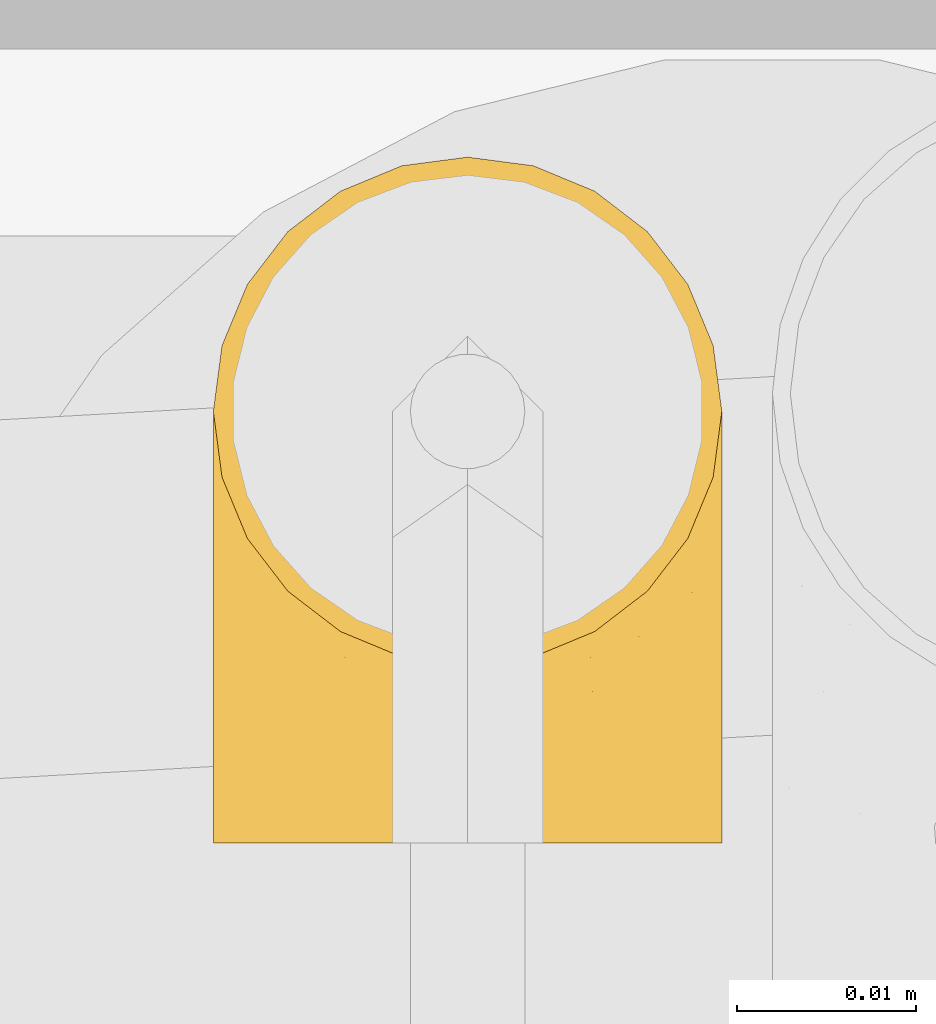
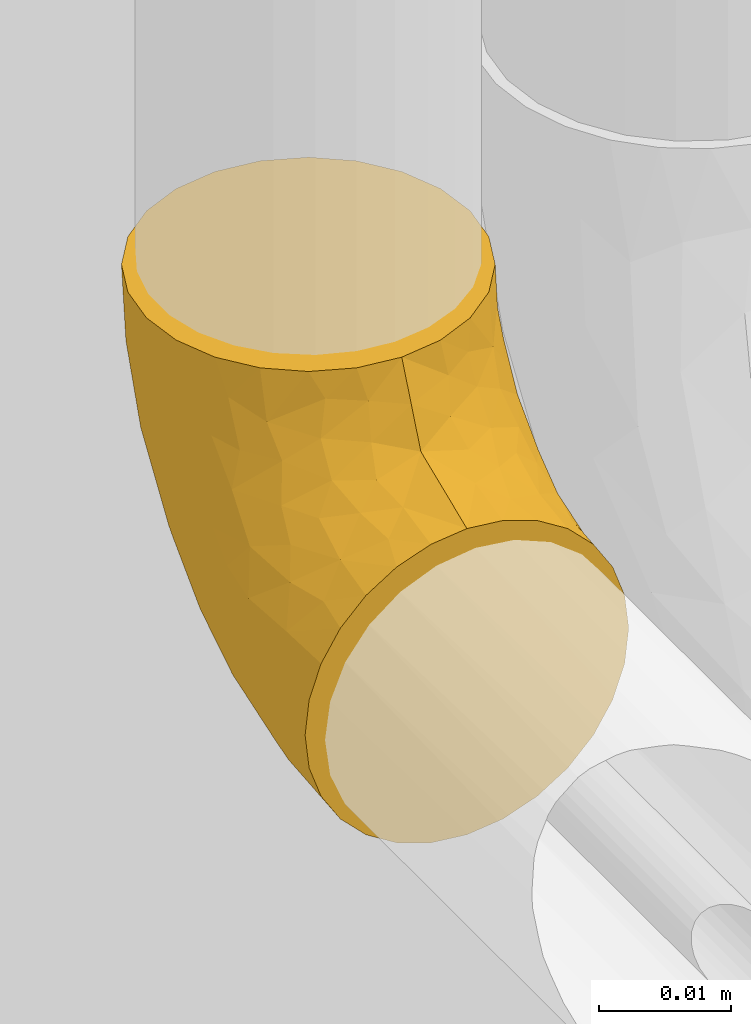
# One storey, part 14 of 30: 1 covering.
"""IFC2X3 building model written with IfcOpenShell, lengths in metres."""

from ifc_helpers import new_model, entity, si_unit, converted_unit, derived_unit, direction, frame, origin, place, context, subcontext, project, spatial, faceted_brep, material, type_object, element, save


model = new_model("IFC2X3")

# Units and contexts
model_context = context("Model", 3, precision=1e-05, world=origin(), true_north=direction((6.123031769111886e-17, 1.0)))
body_context = subcontext(model_context, "Body", "Model", "MODEL_VIEW")
ifc_project = project(units=[si_unit("LENGTHUNIT", "METRE"), si_unit("AREAUNIT", "SQUARE_METRE"), si_unit("VOLUMEUNIT", "CUBIC_METRE"), converted_unit("PLANEANGLEUNIT", "DEGREE", entity("IfcPlaneAngleMeasure", 0.017453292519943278), si_unit("PLANEANGLEUNIT", "RADIAN"), dimensions=[0, 0, 0, 0, 0, 0, 0]), si_unit("MASSUNIT", "GRAM", prefix="KILO"), derived_unit("MASSDENSITYUNIT", [(si_unit("MASSUNIT", "GRAM", prefix="KILO"), 1), (si_unit("LENGTHUNIT", "METRE"), -3)]), derived_unit("IONCONCENTRATIONUNIT", [(si_unit("MASSUNIT", "GRAM", prefix="KILO"), 1), (si_unit("LENGTHUNIT", "METRE"), -3)]), derived_unit("MOMENTOFINERTIAUNIT", [(si_unit("LENGTHUNIT", "METRE"), 4)]), si_unit("TIMEUNIT", "SECOND"), si_unit("FREQUENCYUNIT", "HERTZ"), si_unit("THERMODYNAMICTEMPERATUREUNIT", "DEGREE_CELSIUS"), derived_unit("THERMALTRANSMITTANCEUNIT", [(si_unit("MASSUNIT", "GRAM", prefix="KILO"), 1), (si_unit("THERMODYNAMICTEMPERATUREUNIT", "KELVIN"), -1), (si_unit("TIMEUNIT", "SECOND"), -3)]), derived_unit("THERMALCONDUCTANCEUNIT", [(si_unit("MASSUNIT", "GRAM", prefix="KILO"), 1), (si_unit("THERMODYNAMICTEMPERATUREUNIT", "KELVIN"), -1), (si_unit("TIMEUNIT", "SECOND"), -3), (si_unit("LENGTHUNIT", "METRE"), 1)]), derived_unit("VOLUMETRICFLOWRATEUNIT", [(si_unit("LENGTHUNIT", "METRE", prefix="DECI"), 3), (si_unit("TIMEUNIT", "SECOND"), -1)]), derived_unit("MASSFLOWRATEUNIT", [(si_unit("MASSUNIT", "GRAM", prefix="KILO"), 1), (si_unit("TIMEUNIT", "SECOND"), -1)]), derived_unit("ROTATIONALFREQUENCYUNIT", [(si_unit("TIMEUNIT", "SECOND"), -1)]), si_unit("ELECTRICCURRENTUNIT", "AMPERE"), si_unit("ELECTRICVOLTAGEUNIT", "VOLT"), si_unit("POWERUNIT", "WATT"), si_unit("FORCEUNIT", "NEWTON", prefix="KILO"), si_unit("ILLUMINANCEUNIT", "LUX"), si_unit("LUMINOUSFLUXUNIT", "LUMEN"), si_unit("LUMINOUSINTENSITYUNIT", "CANDELA"), si_unit("ENERGYUNIT", "JOULE"), derived_unit("USERDEFINED", [(si_unit("MASSUNIT", "GRAM", prefix="KILO"), -1), (si_unit("LENGTHUNIT", "METRE"), -2), (si_unit("TIMEUNIT", "SECOND"), 3), (si_unit("LUMINOUSFLUXUNIT", "LUMEN"), 1)]), derived_unit("USERDEFINED", [(si_unit("MASSUNIT", "GRAM", prefix="KILO"), 1), (si_unit("TIMEUNIT", "SECOND"), -3), (si_unit("LENGTHUNIT", "METRE"), 3), (si_unit("ELECTRICCURRENTUNIT", "AMPERE"), -2)]), derived_unit("SOUNDPOWERUNIT", [(si_unit("MASSUNIT", "GRAM", prefix="KILO"), 1), (si_unit("TIMEUNIT", "SECOND"), -3), (si_unit("LENGTHUNIT", "METRE"), 2)]), derived_unit("SOUNDPRESSUREUNIT", [(si_unit("MASSUNIT", "GRAM", prefix="KILO"), 1), (si_unit("LENGTHUNIT", "METRE"), -1), (si_unit("TIMEUNIT", "SECOND"), -2)]), derived_unit("LINEARVELOCITYUNIT", [(si_unit("LENGTHUNIT", "METRE"), 1), (si_unit("TIMEUNIT", "SECOND"), -1)]), si_unit("PRESSUREUNIT", "PASCAL"), derived_unit("USERDEFINED", [(si_unit("MASSUNIT", "GRAM", prefix="KILO"), 1), (si_unit("LENGTHUNIT", "METRE"), -2), (si_unit("TIMEUNIT", "SECOND"), -2)]), derived_unit("LINEARFORCEUNIT", [(si_unit("MASSUNIT", "GRAM", prefix="KILO"), 1), (si_unit("TIMEUNIT", "SECOND"), -2)]), derived_unit("PLANARFORCEUNIT", [(si_unit("MASSUNIT", "GRAM", prefix="KILO"), 1), (si_unit("LENGTHUNIT", "METRE"), -1), (si_unit("TIMEUNIT", "SECOND"), -2)]), derived_unit("SPECIFICHEATCAPACITYUNIT", [(si_unit("THERMODYNAMICTEMPERATUREUNIT", "KELVIN"), -1), (si_unit("LENGTHUNIT", "METRE"), 2), (si_unit("TIMEUNIT", "SECOND"), -2)]), derived_unit("HEATFLUXDENSITYUNIT", [(si_unit("MASSUNIT", "GRAM", prefix="KILO"), 1), (si_unit("TIMEUNIT", "SECOND"), -3)]), derived_unit("HEATINGVALUEUNIT", [(si_unit("LENGTHUNIT", "METRE"), 2), (si_unit("TIMEUNIT", "SECOND"), -2)]), derived_unit("VAPORPERMEABILITYUNIT", [(si_unit("LENGTHUNIT", "METRE"), -1), (si_unit("TIMEUNIT", "SECOND"), 1)]), derived_unit("DYNAMICVISCOSITYUNIT", [(si_unit("MASSUNIT", "GRAM", prefix="KILO"), 1), (si_unit("TIMEUNIT", "SECOND"), -1), (si_unit("LENGTHUNIT", "METRE"), -1)]), derived_unit("THERMALEXPANSIONCOEFFICIENTUNIT", [(si_unit("THERMODYNAMICTEMPERATUREUNIT", "KELVIN"), -1)]), derived_unit("MODULUSOFELASTICITYUNIT", [(si_unit("MASSUNIT", "GRAM", prefix="KILO"), 1), (si_unit("LENGTHUNIT", "METRE"), -1), (si_unit("TIMEUNIT", "SECOND"), -2)]), derived_unit("ISOTHERMALMOISTURECAPACITYUNIT", [(si_unit("MASSUNIT", "GRAM", prefix="KILO"), -1), (si_unit("LENGTHUNIT", "METRE"), 3)]), derived_unit("MOISTUREDIFFUSIVITYUNIT", [(si_unit("TIMEUNIT", "SECOND"), -1), (si_unit("LENGTHUNIT", "METRE"), 2)]), derived_unit("MASSPERLENGTHUNIT", [(si_unit("MASSUNIT", "GRAM", prefix="KILO"), 1), (si_unit("LENGTHUNIT", "METRE"), -1)]), derived_unit("THERMALRESISTANCEUNIT", [(si_unit("MASSUNIT", "GRAM", prefix="KILO"), -1), (si_unit("TIMEUNIT", "SECOND"), 3), (si_unit("THERMODYNAMICTEMPERATUREUNIT", "KELVIN"), 1)]), derived_unit("ACCELERATIONUNIT", [(si_unit("LENGTHUNIT", "METRE"), 1), (si_unit("TIMEUNIT", "SECOND"), -2)]), derived_unit("ANGULARVELOCITYUNIT", [(si_unit("TIMEUNIT", "SECOND"), -1), (si_unit("PLANEANGLEUNIT", "RADIAN"), 1)]), derived_unit("LINEARSTIFFNESSUNIT", [(si_unit("MASSUNIT", "GRAM", prefix="KILO"), 1), (si_unit("TIMEUNIT", "SECOND"), -2)]), derived_unit("WARPINGCONSTANTUNIT", [(si_unit("LENGTHUNIT", "METRE"), 6)]), derived_unit("LINEARMOMENTUNIT", [(si_unit("MASSUNIT", "GRAM", prefix="KILO"), 1), (si_unit("LENGTHUNIT", "METRE"), 1), (si_unit("TIMEUNIT", "SECOND"), -2)]), derived_unit("TORQUEUNIT", [(si_unit("MASSUNIT", "GRAM", prefix="KILO"), 1), (si_unit("LENGTHUNIT", "METRE"), 2), (si_unit("TIMEUNIT", "SECOND"), -2)])], contexts=[model_context])

# Site, building, storey
site_placement = place(None, origin())
site = spatial("IfcSite", under=ifc_project, at=site_placement, Name="Default", CompositionType="ELEMENT")
building_placement = place(site_placement, origin())
building = spatial("IfcBuilding", under=site, at=building_placement, CompositionType="ELEMENT")
storey_placement = place(building_placement, origin())
storey = spatial("IfcBuildingStorey", under=building, at=storey_placement, Name="Niveau 0", CompositionType="ELEMENT", Elevation=-1.949160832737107e-14)

# Covering
ifc_material = material(Name="Matériau du rendu 255-255-255")
covering_type = type_object("IfcCoveringType", Name="Isolation des canalisations:Par défaut", PredefinedType="INSULATION")
covering_placement = place(storey_placement, frame((-19.87895967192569, 2.82258120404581, -0.41579527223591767)))
element("IfcCovering", 1, at=covering_placement, inside=storey, type_object=covering_type, material=ifc_material, Name="Isolation des canalisations:Par défaut", ObjectType="Isolation des canalisations:Par défaut", PredefinedType="INSULATION", context=body_context, shape_type="Brep", body=[
    faceted_brep([(0.001951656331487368, 0.0015952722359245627, 0.012633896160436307), (0.0030025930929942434, 0.0015952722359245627, 0.009631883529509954), (0.004694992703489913, 0.0015952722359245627, 0.006939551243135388), (0.006943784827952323, 0.0015952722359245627, 0.00469161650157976), (0.009636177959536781, 0.0015952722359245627, 0.0030005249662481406), (0.012637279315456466, 0.0015952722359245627, 0.001950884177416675), (0.015795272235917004, 0.0015952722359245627, 0.0015952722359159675), (0.01895664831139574, 0.0015952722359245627, 0.001951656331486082), (0.021958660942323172, 0.0015952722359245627, 0.0030025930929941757), (0.024650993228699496, 0.0015952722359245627, 0.0046949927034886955), (0.026898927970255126, 0.0015952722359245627, 0.006943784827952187), (0.028590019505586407, 0.0015952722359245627, 0.009636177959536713), (0.029639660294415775, 0.0015952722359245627, 0.012637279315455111), (0.029995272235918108, 0.0015952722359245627, 0.015795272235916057), (0.02963888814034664, 0.0015952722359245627, 0.01895664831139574), (0.028587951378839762, 0.0015952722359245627, 0.02195866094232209), (0.026895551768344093, 0.0015952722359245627, 0.024650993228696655), (0.024646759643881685, 0.0015952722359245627, 0.026898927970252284), (0.021954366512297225, 0.0015952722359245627, 0.028590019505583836), (0.01895326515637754, 0.0015952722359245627, 0.02963966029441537), (0.015795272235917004, 0.0015952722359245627, 0.02999527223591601), (0.012633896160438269, 0.0015952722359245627, 0.029638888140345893), (0.009631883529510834, 0.0015952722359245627, 0.028587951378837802), (0.006939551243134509, 0.0015952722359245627, 0.02689555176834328), (0.004691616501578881, 0.0015952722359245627, 0.02464675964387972), (0.003000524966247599, 0.0015952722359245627, 0.021954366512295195), (0.0019508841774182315, 0.0015952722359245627, 0.018953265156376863), (0.0015952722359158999, 0.0015952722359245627, 0.015795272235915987), (0.019470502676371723, 0.011979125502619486, 0.03989527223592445), (0.02289527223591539, 0.013397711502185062, 0.03989527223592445), (0.025836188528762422, 0.01565435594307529, 0.03989527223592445), (0.028092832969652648, 0.018595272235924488, 0.03989527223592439), (0.029511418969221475, 0.022020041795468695, 0.03989527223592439), (0.029995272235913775, 0.025695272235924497, 0.03989527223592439), (0.029511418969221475, 0.029370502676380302, 0.03989527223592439), (0.028092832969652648, 0.03279527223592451, 0.03989527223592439), (0.025836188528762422, 0.035736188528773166, 0.03989527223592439), (0.02289527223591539, 0.037992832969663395, 0.03989527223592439), (0.019470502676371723, 0.03941141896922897, 0.03989527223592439), (0.015795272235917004, 0.03989527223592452, 0.03989527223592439), (0.012120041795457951, 0.03941141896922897, 0.03989527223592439), (0.008695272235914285, 0.037992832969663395, 0.03989527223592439), (0.005754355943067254, 0.035736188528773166, 0.03989527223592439), (0.0034977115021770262, 0.03279527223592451, 0.03989527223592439), (0.002079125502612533, 0.029370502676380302, 0.03989527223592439), (0.0015952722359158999, 0.025695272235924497, 0.03989527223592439), (0.0020791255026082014, 0.022020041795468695, 0.03989527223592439), (0.0034977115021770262, 0.018595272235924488, 0.03989527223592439), (0.005754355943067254, 0.01565435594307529, 0.03989527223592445), (0.008695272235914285, 0.013397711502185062, 0.03989527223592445), (0.012120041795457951, 0.011979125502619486, 0.03989527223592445), (0.015795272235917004, 0.011495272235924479, 0.03989527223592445), (0.0018566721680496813, 0.01002356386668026, 0.01444233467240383), (0.01342388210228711, 0.03837015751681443, 0.029932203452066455), (0.015795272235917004, 0.03807857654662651, 0.0331152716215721), (0.015795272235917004, 0.03642131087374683, 0.02693027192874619), (0.0033376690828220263, 0.02960367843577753, 0.026807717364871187), (0.005049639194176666, 0.03380758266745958, 0.031132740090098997), (0.005409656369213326, 0.03076747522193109, 0.022855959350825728), (0.0019283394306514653, 0.016864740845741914, 0.01743704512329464), (0.0015952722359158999, 0.0136452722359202, 0.019024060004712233), (0.011502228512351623, 0.010860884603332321, 0.0034181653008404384), (0.009156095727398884, 0.01756297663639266, 0.006903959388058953), (0.012083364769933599, 0.018031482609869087, 0.005848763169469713), (0.0022458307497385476, 0.022802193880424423, 0.021082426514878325), (0.0015952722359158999, 0.018055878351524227, 0.02343466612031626), (0.008040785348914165, 0.03442139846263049, 0.02512582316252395), (0.010786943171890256, 0.03783267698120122, 0.030693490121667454), (0.011666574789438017, 0.03438477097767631, 0.021317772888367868), (0.0029464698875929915, 0.031158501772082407, 0.03399886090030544), (0.0019132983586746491, 0.027268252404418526, 0.03125340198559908), (0.008787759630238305, 0.029040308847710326, 0.015907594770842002), (0.0015952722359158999, 0.022466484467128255, 0.027845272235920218), (0.0015952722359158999, 0.023181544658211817, 0.030513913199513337), (0.0015952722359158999, 0.02389660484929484, 0.033182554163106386), (0.0015952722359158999, 0.024080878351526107, 0.0338702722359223), (0.0015952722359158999, 0.02479593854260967, 0.03653891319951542), (0.0026820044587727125, 0.019401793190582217, 0.01631519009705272), (0.0035716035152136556, 0.025738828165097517, 0.019934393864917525), (0.003863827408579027, 0.021058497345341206, 0.014748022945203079), (0.004162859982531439, 0.008564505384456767, 0.0084133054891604), (0.0063228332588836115, 0.010939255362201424, 0.006498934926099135), (0.008616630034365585, 0.008435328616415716, 0.004192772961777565), (0.015795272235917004, 0.014560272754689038, 0.005069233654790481), (0.002659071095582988, 0.007947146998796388, 0.011094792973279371), (0.00302466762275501, 0.015081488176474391, 0.012751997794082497), (0.00754829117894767, 0.03658290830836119, 0.03300459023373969), (0.0015952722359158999, 0.004951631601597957, 0.016694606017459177), (0.0015952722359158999, 0.007620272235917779, 0.01740966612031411), (0.0015952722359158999, 0.008307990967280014, 0.01759393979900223), (0.0015952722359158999, 0.010976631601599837, 0.01830899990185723), (0.004997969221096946, 0.016854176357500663, 0.010271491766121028), (0.007159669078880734, 0.021901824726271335, 0.010932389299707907), (0.015795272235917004, 0.00837527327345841, 0.003411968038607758), (0.005390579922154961, 0.025384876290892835, 0.015936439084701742), (0.015795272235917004, 0.02775465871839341, 0.013735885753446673), (0.015795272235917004, 0.02074527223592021, 0.0067264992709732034), (0.012056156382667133, 0.02452709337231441, 0.009847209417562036), (0.015795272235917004, 0.03476404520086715, 0.02074527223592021), (0.011681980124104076, 0.029976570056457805, 0.015093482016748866), (0.009491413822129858, 0.02334684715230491, 0.010181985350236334), (0.0015952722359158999, 0.02026118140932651, 0.025639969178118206), (0.0015952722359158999, 0.01585057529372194, 0.02122936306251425), (0.002213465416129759, 0.011258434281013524, 0.022435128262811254), (0.002761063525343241, 0.0064427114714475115, 0.022077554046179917), (0.0040506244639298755, 0.008142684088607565, 0.02516640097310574), (0.0019202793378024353, 0.020889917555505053, 0.03140681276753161), (0.002102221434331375, 0.021588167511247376, 0.03615564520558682), (0.005860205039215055, 0.014794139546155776, 0.03536609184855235), (0.006234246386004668, 0.013099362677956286, 0.03263951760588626), (0.008939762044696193, 0.011933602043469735, 0.0344934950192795), (0.0032572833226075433, 0.015604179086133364, 0.029518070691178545), (0.0020017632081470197, 0.01899677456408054, 0.02863542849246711), (0.0020805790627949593, 0.016450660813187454, 0.025885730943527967), (0.009727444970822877, 0.012599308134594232, 0.03749996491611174), (0.0025332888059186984, 0.019908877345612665, 0.034742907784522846), (0.0040093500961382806, 0.01745874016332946, 0.03671230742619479), (0.012324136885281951, 0.010112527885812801, 0.03404877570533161), (0.015795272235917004, 0.008595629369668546, 0.03289491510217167), (0.015795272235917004, 0.010045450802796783, 0.03639509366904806), (0.01175165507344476, 0.008311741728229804, 0.031840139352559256), (0.0019493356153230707, 0.004938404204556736, 0.01921494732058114), (0.012616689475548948, 0.00580074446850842, 0.030536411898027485), (0.009696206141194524, 0.007255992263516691, 0.030142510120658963), (0.010446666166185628, 0.004263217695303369, 0.029279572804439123), (0.0070634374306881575, 0.005709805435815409, 0.027666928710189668), (0.00712496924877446, 0.009080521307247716, 0.029445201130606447), (0.008828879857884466, 0.010052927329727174, 0.031772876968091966), (0.004930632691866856, 0.004564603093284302, 0.02523626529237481), (0.0018816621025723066, 0.008085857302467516, 0.01964765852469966), (0.01279210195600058, 0.011387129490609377, 0.03696396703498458), (0.015795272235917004, 0.005095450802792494, 0.03144509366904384), (0.003128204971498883, 0.012638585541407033, 0.026085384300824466), (0.004981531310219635, 0.009677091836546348, 0.027381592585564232), (0.004122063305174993, 0.015887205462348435, 0.03267010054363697), (0.002976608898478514, 0.018224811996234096, 0.03303024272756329), (0.0020511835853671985, 0.014226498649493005, 0.023710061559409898), (0.005370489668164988, 0.011756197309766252, 0.029609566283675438), (0.022758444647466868, 0.010052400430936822, 0.03177494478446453), (0.019266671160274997, 0.010112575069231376, 0.034048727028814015), (0.019833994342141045, 0.00831020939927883, 0.0318407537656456), (0.029995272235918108, 0.0049516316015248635, 0.016694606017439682), (0.019964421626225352, 0.011619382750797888, 0.036684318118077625), (0.029995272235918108, 0.023181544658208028, 0.030513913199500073), (0.0296702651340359, 0.020889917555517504, 0.031406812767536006), (0.029995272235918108, 0.022466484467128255, 0.027845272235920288), (0.02237447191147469, 0.012813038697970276, 0.0372909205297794), (0.029488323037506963, 0.021588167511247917, 0.036155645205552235), (0.029995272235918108, 0.02479593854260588, 0.03653891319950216), (0.02621477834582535, 0.011752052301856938, 0.02961348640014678), (0.028458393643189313, 0.012633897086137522, 0.026091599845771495), (0.02832921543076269, 0.015599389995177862, 0.02952438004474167), (0.028613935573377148, 0.018224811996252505, 0.03303024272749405), (0.029057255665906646, 0.019908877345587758, 0.03474290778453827), (0.027581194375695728, 0.017458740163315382, 0.03671230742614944), (0.025730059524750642, 0.014794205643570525, 0.03536712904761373), (0.02535501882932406, 0.013099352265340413, 0.032641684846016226), (0.02264995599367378, 0.011934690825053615, 0.03449656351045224), (0.021139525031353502, 0.004262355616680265, 0.029281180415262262), (0.018971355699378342, 0.00579937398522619, 0.03053642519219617), (0.028827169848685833, 0.006441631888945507, 0.02208279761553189), (0.029640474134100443, 0.004940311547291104, 0.019218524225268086), (0.02452219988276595, 0.005707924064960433, 0.02767033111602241), (0.029995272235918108, 0.007620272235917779, 0.01740966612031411), (0.029995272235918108, 0.008307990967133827, 0.017593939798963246), (0.029376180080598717, 0.011262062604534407, 0.02244050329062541), (0.027535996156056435, 0.008140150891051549, 0.025171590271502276), (0.026655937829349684, 0.00456334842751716, 0.02524082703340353), (0.021889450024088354, 0.007253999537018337, 0.03014404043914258), (0.02446036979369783, 0.009077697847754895, 0.029448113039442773), (0.027467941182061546, 0.015888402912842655, 0.032674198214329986), (0.029588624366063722, 0.018992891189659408, 0.028630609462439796), (0.029995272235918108, 0.010976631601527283, 0.018308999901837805), (0.029995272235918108, 0.0136452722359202, 0.019024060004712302), (0.02968842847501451, 0.009624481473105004, 0.020313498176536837), (0.02660438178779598, 0.009673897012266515, 0.02738600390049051), (0.029534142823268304, 0.014210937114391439, 0.023723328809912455), (0.029995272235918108, 0.018055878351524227, 0.02343466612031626), (0.029507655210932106, 0.01643599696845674, 0.025882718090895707), (0.029995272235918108, 0.01585057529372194, 0.021229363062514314), (0.029995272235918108, 0.02026118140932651, 0.025639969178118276), (0.029995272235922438, 0.02389660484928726, 0.03318255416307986), (0.029995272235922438, 0.024080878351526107, 0.0338702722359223), (0.02654097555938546, 0.03380780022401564, 0.031133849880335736), (0.028253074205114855, 0.029604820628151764, 0.026811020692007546), (0.026181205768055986, 0.030767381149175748, 0.0228564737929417), (0.02743049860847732, 0.008564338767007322, 0.008417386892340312), (0.029677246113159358, 0.027268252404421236, 0.031253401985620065), (0.022802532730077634, 0.029032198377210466, 0.01589810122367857), (0.01953627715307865, 0.02452672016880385, 0.009847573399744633), (0.01885314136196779, 0.03028171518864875, 0.015024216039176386), (0.024434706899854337, 0.021899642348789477, 0.010934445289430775), (0.026595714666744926, 0.01685214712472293, 0.01027458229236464), (0.025271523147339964, 0.010939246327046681, 0.00650247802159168), (0.028644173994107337, 0.031158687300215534, 0.03400087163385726), (0.02080353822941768, 0.037832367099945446, 0.030692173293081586), (0.023549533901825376, 0.034420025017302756, 0.025122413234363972), (0.01992365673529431, 0.03438465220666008, 0.02131737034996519), (0.028567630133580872, 0.015079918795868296, 0.012755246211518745), (0.028146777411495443, 0.022101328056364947, 0.016505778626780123), (0.029662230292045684, 0.01686392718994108, 0.0174366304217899), (0.0200920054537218, 0.010861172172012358, 0.0034194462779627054), (0.029734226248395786, 0.010022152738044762, 0.014443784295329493), (0.024042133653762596, 0.03658260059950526, 0.03300258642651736), (0.02297803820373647, 0.008436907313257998, 0.0041955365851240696), (0.022438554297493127, 0.017562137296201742, 0.006905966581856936), (0.029344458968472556, 0.022801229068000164, 0.021080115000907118), (0.028396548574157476, 0.02609654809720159, 0.0214872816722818), (0.01816661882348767, 0.03837016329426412, 0.029932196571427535), (0.026203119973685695, 0.025382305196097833, 0.01593867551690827), (0.028933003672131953, 0.007946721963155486, 0.011098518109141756), (0.01886267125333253, 0.01802090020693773, 0.005667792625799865), (0.0221022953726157, 0.0233488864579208, 0.010185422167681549)], [[[0, 1, 2, 3, 4, 5, 6, 7, 8, 9, 10, 11, 12, 13, 14, 15, 16, 17, 18, 19, 20, 21, 22, 23, 24, 25, 26, 27]], [[28, 29, 30, 31, 32, 33, 34, 35, 36, 37, 38, 39, 40, 41, 42, 43, 44, 45, 46, 47, 48, 49, 50, 51]], [[27, 52, 0]], [[53, 54, 55]], [[56, 57, 58]], [[59, 52, 60]], [[61, 62, 63]], [[64, 59, 65]], [[66, 67, 68]], [[57, 56, 69]], [[70, 45, 44]], [[43, 42, 57]], [[66, 68, 71]], [[70, 72, 73, 74, 75, 76, 45]], [[44, 43, 69]], [[77, 78, 79]], [[80, 81, 2]], [[41, 40, 67]], [[82, 62, 61]], [[2, 81, 3]], [[63, 83, 61]], [[61, 5, 4]], [[84, 52, 85]], [[40, 39, 54]], [[58, 78, 56]], [[66, 86, 67]], [[86, 42, 41]], [[52, 27, 87, 88, 89, 90, 60]], [[91, 92, 81]], [[70, 64, 72]], [[80, 2, 1]], [[93, 5, 61]], [[1, 0, 84]], [[93, 6, 5]], [[81, 80, 91]], [[4, 82, 61]], [[54, 53, 40]], [[82, 4, 3]], [[68, 67, 53]], [[86, 57, 42]], [[58, 94, 78]], [[69, 70, 44]], [[64, 70, 56]], [[78, 64, 56]], [[85, 52, 59]], [[3, 81, 82]], [[62, 82, 81]], [[84, 80, 1]], [[91, 80, 85]], [[79, 91, 85]], [[91, 94, 92]], [[95, 96, 97]], [[94, 58, 71]], [[98, 95, 99]], [[99, 95, 97]], [[92, 62, 81]], [[92, 100, 62]], [[68, 99, 71]], [[52, 84, 0]], [[80, 84, 85]], [[67, 86, 41]], [[57, 86, 66]], [[57, 66, 58]], [[71, 58, 66]], [[64, 65, 101, 72]], [[77, 79, 85]], [[59, 60, 102, 65]], [[94, 71, 92]], [[71, 99, 100]], [[68, 53, 55]], [[98, 68, 55]], [[40, 53, 67]], [[71, 100, 92]], [[63, 100, 97]], [[57, 69, 43]], [[70, 69, 56]], [[100, 63, 62]], [[83, 93, 61]], [[79, 78, 94]], [[91, 79, 94]], [[85, 59, 77]], [[59, 64, 77]], [[78, 77, 64]], [[99, 68, 98]], [[100, 99, 97]], [[97, 96, 63]], [[83, 63, 96]], [[103, 104, 105]], [[72, 106, 73]], [[47, 46, 107]], [[107, 46, 76]], [[108, 109, 110]], [[111, 112, 113]], [[108, 110, 114]], [[47, 115, 116]], [[117, 118, 119]], [[108, 49, 48]], [[118, 117, 120]], [[25, 121, 26]], [[49, 114, 50]], [[122, 123, 124]], [[124, 125, 22]], [[126, 123, 127]], [[128, 104, 24]], [[129, 103, 60]], [[24, 104, 25]], [[27, 26, 87]], [[123, 120, 127]], [[130, 117, 119]], [[107, 76, 75, 74, 73]], [[131, 118, 122, 20]], [[105, 132, 103]], [[21, 124, 22]], [[23, 22, 125]], [[121, 87, 26]], [[126, 133, 125]], [[130, 110, 117]], [[123, 122, 120]], [[128, 24, 23]], [[50, 130, 51]], [[128, 125, 105]], [[129, 121, 104]], [[116, 108, 48]], [[134, 135, 111]], [[135, 112, 111]], [[127, 120, 117]], [[21, 20, 122]], [[125, 124, 123]], [[21, 122, 124]], [[105, 133, 132]], [[136, 103, 132]], [[111, 132, 137]], [[113, 136, 132]], [[111, 137, 109]], [[112, 106, 72]], [[118, 120, 122]], [[127, 117, 110]], [[109, 127, 110]], [[126, 127, 137]], [[133, 126, 137]], [[125, 123, 126]], [[132, 133, 137]], [[125, 133, 105]], [[125, 128, 23]], [[104, 128, 105]], [[113, 101, 65]], [[101, 113, 112]], [[102, 136, 65]], [[132, 111, 113]], [[103, 102, 60]], [[104, 121, 25]], [[121, 89, 88, 87]], [[129, 60, 90, 89]], [[121, 129, 89]], [[115, 107, 106]], [[106, 112, 135]], [[73, 106, 107]], [[106, 135, 115]], [[116, 115, 135]], [[47, 107, 115]], [[116, 135, 134]], [[47, 116, 48]], [[51, 130, 119]], [[130, 50, 114]], [[112, 72, 101]], [[108, 114, 49]], [[130, 114, 110]], [[65, 136, 113]], [[102, 103, 136]], [[46, 45, 76]], [[109, 108, 134]], [[127, 109, 137]], [[109, 134, 111]], [[116, 134, 108]], [[103, 129, 104]], [[138, 139, 140]], [[14, 13, 141]], [[119, 142, 51]], [[139, 142, 119]], [[143, 144, 145]], [[142, 146, 28]], [[147, 148, 32]], [[149, 150, 151]], [[152, 153, 154]], [[118, 139, 119]], [[155, 29, 146]], [[138, 156, 157]], [[158, 159, 19]], [[157, 139, 138]], [[18, 158, 19]], [[160, 15, 161]], [[17, 162, 18]], [[161, 141, 163, 164]], [[160, 165, 166]], [[147, 32, 31]], [[17, 16, 167]], [[168, 158, 162]], [[160, 166, 167]], [[149, 138, 169]], [[170, 156, 151]], [[151, 171, 152]], [[172, 173, 174, 164]], [[14, 161, 15]], [[155, 30, 29]], [[160, 16, 15]], [[19, 159, 20]], [[118, 131, 20, 159]], [[169, 175, 149]], [[167, 162, 17]], [[174, 165, 160]], [[156, 155, 157]], [[155, 170, 154]], [[150, 166, 165]], [[118, 159, 140]], [[142, 139, 157]], [[162, 158, 18]], [[159, 158, 168]], [[159, 168, 140]], [[176, 177, 178]], [[150, 149, 175]], [[176, 178, 150]], [[171, 145, 144]], [[165, 179, 176]], [[170, 151, 152]], [[140, 168, 138]], [[118, 140, 139]], [[169, 138, 168]], [[156, 138, 149]], [[168, 162, 169]], [[175, 162, 166]], [[162, 175, 169]], [[150, 175, 166]], [[160, 167, 16]], [[162, 167, 166]], [[178, 171, 151]], [[178, 180, 171]], [[151, 150, 178]], [[165, 173, 179]], [[176, 150, 165]], [[141, 161, 14]], [[174, 173, 165]], [[174, 161, 164]], [[152, 144, 153]], [[147, 143, 181, 182, 148]], [[147, 153, 144]], [[147, 144, 143]], [[171, 144, 152]], [[147, 31, 153]], [[154, 31, 30]], [[31, 154, 153]], [[155, 154, 30]], [[146, 142, 157]], [[142, 28, 51]], [[155, 146, 157]], [[28, 146, 29]], [[180, 178, 177]], [[180, 145, 171]], [[177, 176, 179]], [[148, 33, 32]], [[151, 156, 149]], [[154, 170, 152]], [[156, 170, 155]], [[161, 174, 160]], [[183, 184, 185]], [[10, 186, 11]], [[187, 33, 148, 182, 181, 143, 145]], [[188, 189, 190]], [[191, 192, 193]], [[34, 194, 35]], [[195, 38, 37]], [[195, 196, 197]], [[194, 183, 35]], [[54, 39, 38]], [[183, 36, 35]], [[98, 55, 197]], [[198, 199, 200]], [[8, 7, 201]], [[200, 173, 202]], [[203, 195, 37]], [[13, 12, 202]], [[36, 203, 37]], [[9, 193, 10]], [[204, 205, 193]], [[187, 206, 207]], [[193, 186, 10]], [[7, 6, 93]], [[55, 208, 197]], [[186, 192, 198]], [[201, 204, 8]], [[192, 199, 198]], [[192, 191, 209]], [[202, 173, 172, 164, 163, 141, 13]], [[7, 93, 201]], [[210, 202, 12]], [[204, 9, 8]], [[33, 187, 34]], [[11, 210, 12]], [[83, 96, 211]], [[207, 206, 199]], [[38, 195, 208]], [[207, 185, 184]], [[203, 183, 196]], [[206, 187, 145]], [[194, 187, 184]], [[206, 177, 200]], [[206, 200, 199]], [[205, 204, 201]], [[193, 9, 204]], [[192, 186, 193]], [[210, 186, 198]], [[191, 193, 205]], [[199, 192, 209]], [[196, 185, 188]], [[190, 98, 197]], [[197, 196, 188]], [[95, 189, 96]], [[211, 205, 201]], [[190, 189, 95]], [[212, 188, 191]], [[186, 210, 11]], [[202, 210, 198]], [[183, 203, 36]], [[195, 203, 196]], [[188, 185, 209]], [[196, 183, 185]], [[198, 200, 202]], [[212, 191, 205]], [[206, 145, 180, 177]], [[200, 177, 179, 173]], [[188, 209, 191]], [[38, 208, 54]], [[54, 208, 55]], [[197, 208, 195]], [[205, 189, 212]], [[188, 212, 189]], [[187, 194, 34]], [[183, 194, 184]], [[189, 211, 96]], [[201, 93, 83]], [[209, 185, 207]], [[207, 199, 209]], [[187, 207, 184]], [[98, 190, 95]], [[188, 190, 197]], [[205, 211, 189]], [[83, 211, 201]]]),
])

save(model, "model.ifc")
